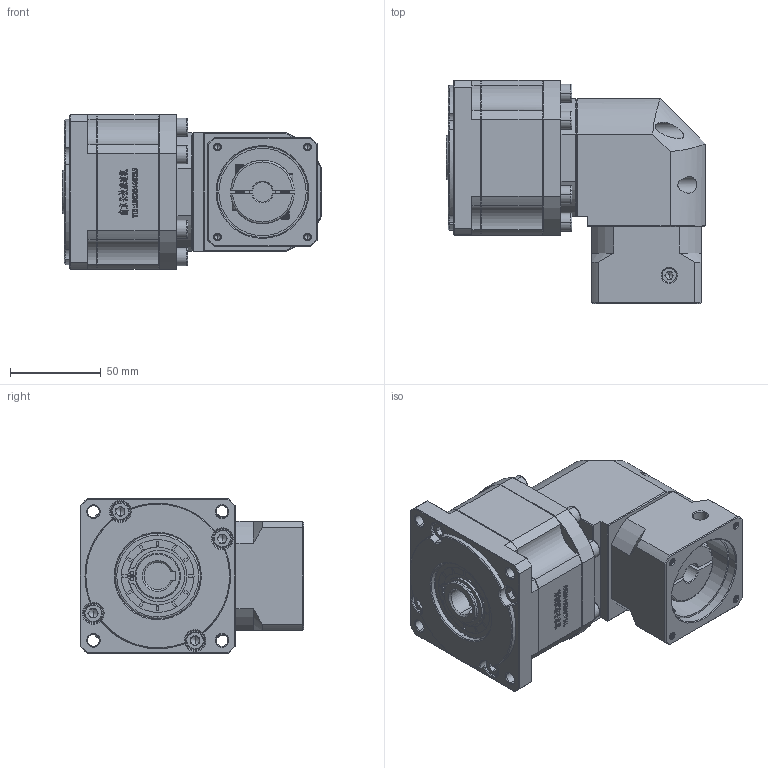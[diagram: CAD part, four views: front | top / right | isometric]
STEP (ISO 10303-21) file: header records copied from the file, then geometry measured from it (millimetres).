
FILE_DESCRIPTION (( 'STEP AP214' ), '1' );
FILE_NAME ('ZBR90-K15-L2-11-50-70-M4.step', '2022-05-07T15:23:24', ( '' ), ( 'Microsoft' ), 'SwSTEP 2.0', 'SolidWorks 2016', '' );
FILE_SCHEMA (( 'AUTOMOTIVE_DESIGN' ));
Length unit declared in the file: millimetre
Products named in the file (1): ZBR90-K15-L2-11-50-70-M4
Bounding box: 142.5 x 122.7 x 85 mm (x, y, z)
Volume: 782811.7 mm3; surface area: 97780.6 mm2
Topology: 5 solids, 5 shells, 2982 faces, 8017 edges, 5178 vertices
Faces by surface type: plane 1591, bspline 598, cylinder 410, cone 363, torus 20
Entity records: 154902 total; most frequent: CARTESIAN_POINT 51736, ORIENTED_EDGE 15946, DIRECTION 12346, EDGE_CURVE 7973, VECTOR 5286, LINE 5286, VERTEX_POINT 5178, AXIS2_PLACEMENT_3D 3530
